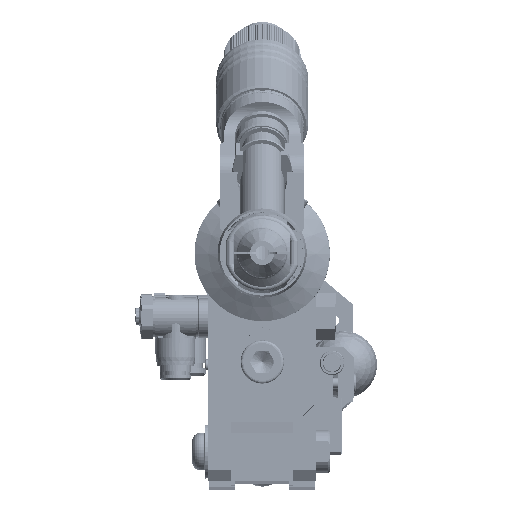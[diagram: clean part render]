
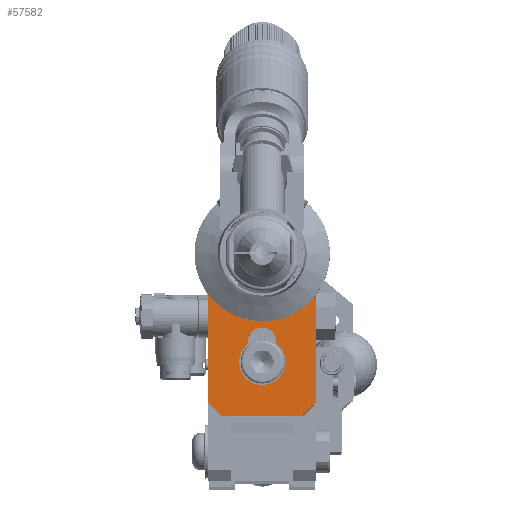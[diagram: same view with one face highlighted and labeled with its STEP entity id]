
A CAD part, top view. The second image highlights one B-rep face of the part: STEP entity #57582.
In plain terms, the highlighted planar face has unit normal (0, 0, 1).
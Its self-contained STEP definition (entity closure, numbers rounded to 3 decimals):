
#3356=FACE_BOUND($,#16372,.T.);
#5265=CIRCLE($,#62527,5.25);
#5269=CIRCLE($,#62542,22.);
#5270=CIRCLE($,#62543,8.5);
#11995=FACE_OUTER_BOUND($,#16371,.T.);
#16371=EDGE_LOOP($,(#44716,#44717,#44718,#44719,#44720,#44721,#44722,#44723));
#16372=EDGE_LOOP($,(#44724,#44725,#44726,#44727));
#19537=LINE($,#95111,#22874);
#19542=LINE($,#95120,#22879);
#19551=LINE($,#95159,#22888);
#20015=LINE($,#97063,#23352);
#20025=LINE($,#97086,#23362);
#20028=LINE($,#97104,#23365);
#20037=LINE($,#97135,#23374);
#20044=LINE($,#97148,#23381);
#20050=LINE($,#97164,#23387);
#22874=VECTOR($,#71498,7.071);
#22879=VECTOR($,#71505,30.);
#22888=VECTOR($,#71546,7.071);
#23352=VECTOR($,#73008,41.);
#23362=VECTOR($,#73026,0.815);
#23365=VECTOR($,#73031,3.029);
#23374=VECTOR($,#73048,3.029);
#23381=VECTOR($,#73063,41.);
#23387=VECTOR($,#73081,0.815);
#27699=VERTEX_POINT($,#95108);
#27700=VERTEX_POINT($,#95110);
#27702=VERTEX_POINT($,#95116);
#27717=VERTEX_POINT($,#95158);
#28207=VERTEX_POINT($,#97062);
#28212=VERTEX_POINT($,#97074);
#28213=VERTEX_POINT($,#97076);
#28216=VERTEX_POINT($,#97085);
#28219=VERTEX_POINT($,#97101);
#28220=VERTEX_POINT($,#97103);
#28228=VERTEX_POINT($,#97134);
#28234=VERTEX_POINT($,#97162);
#33597=EDGE_CURVE($,#27699,#27700,#19537,.T.);
#33602=EDGE_CURVE($,#27700,#27702,#19542,.T.);
#33621=EDGE_CURVE($,#27702,#27717,#19551,.T.);
#34324=EDGE_CURVE($,#27717,#28207,#20015,.T.);
#34331=EDGE_CURVE($,#28213,#28212,#5265,.T.);
#34336=EDGE_CURVE($,#28216,#28213,#20025,.T.);
#34340=EDGE_CURVE($,#28219,#28220,#20028,.T.);
#34351=EDGE_CURVE($,#28207,#28228,#20037,.T.);
#34359=EDGE_CURVE($,#28220,#27699,#20044,.T.);
#34366=EDGE_CURVE($,#28228,#28219,#5269,.T.);
#34367=EDGE_CURVE($,#28234,#28216,#5270,.T.);
#34368=EDGE_CURVE($,#28212,#28234,#20050,.T.);
#44716=ORIENTED_EDGE($,*,*,#34340,.F.);
#44717=ORIENTED_EDGE($,*,*,#34366,.F.);
#44718=ORIENTED_EDGE($,*,*,#34351,.F.);
#44719=ORIENTED_EDGE($,*,*,#34324,.F.);
#44720=ORIENTED_EDGE($,*,*,#33621,.F.);
#44721=ORIENTED_EDGE($,*,*,#33602,.F.);
#44722=ORIENTED_EDGE($,*,*,#33597,.F.);
#44723=ORIENTED_EDGE($,*,*,#34359,.F.);
#44724=ORIENTED_EDGE($,*,*,#34367,.T.);
#44725=ORIENTED_EDGE($,*,*,#34336,.T.);
#44726=ORIENTED_EDGE($,*,*,#34331,.T.);
#44727=ORIENTED_EDGE($,*,*,#34368,.T.);
#54868=PLANE($,#62541);
#57582=ADVANCED_FACE($,(#11995,#3356),#54868,.T.);
#62527=AXIS2_PLACEMENT_3D($,#97077,#73018,#73019);
#62541=AXIS2_PLACEMENT_3D($,#97160,#73075,#73076);
#62542=AXIS2_PLACEMENT_3D($,#97161,#73077,#73078);
#62543=AXIS2_PLACEMENT_3D($,#97163,#73079,#73080);
#71498=DIRECTION($,(-0.707,-0.707,0.));
#71505=DIRECTION($,(-1.,0.,0.));
#71546=DIRECTION($,(-0.707,0.707,0.));
#73008=DIRECTION($,(0.,1.,0.));
#73018=DIRECTION('center_axis',(0.,0.,
-1.));
#73019=DIRECTION('ref_axis',(1.,0.,0.));
#73026=DIRECTION($,(0.,1.,0.));
#73031=DIRECTION($,(1.,0.,0.));
#73048=DIRECTION($,(1.,0.,0.));
#73063=DIRECTION($,(0.,-1.,0.));
#73075=DIRECTION('center_axis',(0.,0.,
1.));
#73076=DIRECTION('ref_axis',(1.,0.,0.));
#73077=DIRECTION('center_axis',(0.,0.,
1.));
#73078=DIRECTION('ref_axis',(-0.771,-0.636,0.));
#73079=DIRECTION('center_axis',(0.,0.,
-1.));
#73080=DIRECTION('ref_axis',(-1.,0.,0.));
#73081=DIRECTION($,(0.,-1.,0.));
#95108=CARTESIAN_POINT('',(20.,13.,23.3));
#95110=CARTESIAN_POINT('',(15.,8.,23.3));
#95111=CARTESIAN_POINT($,(20.,13.,23.3));
#95116=CARTESIAN_POINT('',(-15.,8.,23.3));
#95120=CARTESIAN_POINT($,(15.,8.,23.3));
#95158=CARTESIAN_POINT('',(-20.,13.,23.3));
#95159=CARTESIAN_POINT($,(-15.,8.,23.3));
#97062=CARTESIAN_POINT('',(-20.,54.,23.3));
#97063=CARTESIAN_POINT($,(-20.,13.,23.3));
#97074=CARTESIAN_POINT('',(5.25,35.5,23.3));
#97076=CARTESIAN_POINT('',(-5.25,35.5,23.3));
#97077=CARTESIAN_POINT('Origin',(0.,35.5,
23.3));
#97085=CARTESIAN_POINT('',(-5.25,34.685,23.3));
#97086=CARTESIAN_POINT($,(-5.25,34.685,23.3));
#97101=CARTESIAN_POINT('',(16.971,54.,23.3));
#97103=CARTESIAN_POINT('',(20.,54.,23.3));
#97104=CARTESIAN_POINT($,(16.971,54.,23.3));
#97134=CARTESIAN_POINT('',(-16.971,54.,23.3));
#97135=CARTESIAN_POINT($,(-20.,54.,23.3));
#97148=CARTESIAN_POINT($,(20.,54.,23.3));
#97160=CARTESIAN_POINT('Origin',(0.,31.423,
23.3));
#97161=CARTESIAN_POINT('Origin',(0.,68.,
23.3));
#97162=CARTESIAN_POINT('',(5.25,34.685,23.3));
#97163=CARTESIAN_POINT('Origin',(0.,28.,
23.3));
#97164=CARTESIAN_POINT($,(5.25,35.5,23.3));
